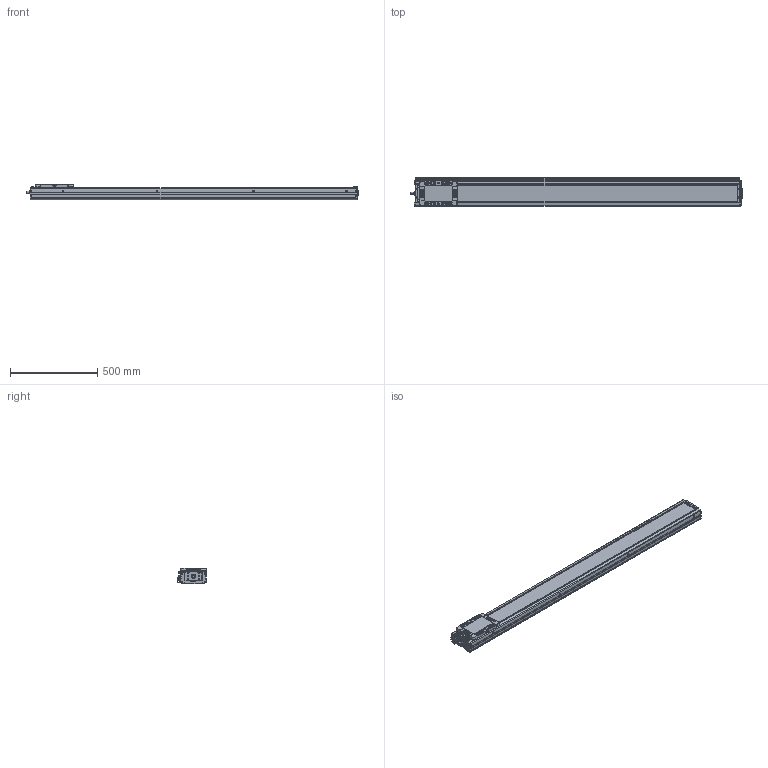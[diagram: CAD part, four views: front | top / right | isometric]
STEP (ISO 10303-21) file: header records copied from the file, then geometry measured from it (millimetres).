
FILE_DESCRIPTION(('STEP AP214'),'1');
FILE_NAME('Z:/Web/3D/SAN150/2013.04 (STP.)/SAN150ㅁㅁ-1600+3SL.stp','2013-05-07T08:15:54',(' '),(' '),'Spatial InterOp 3D',' ',' ');
FILE_SCHEMA(('automotive_design'));
Length unit declared in the file: millimetre
Products named in the file (57): SLBL-SAN150; SLCV-SAN150; FHCS M4.0 x 8.0; BHCS M4.0 x 10.0; SFX-SAN150; RRCV-SAN150; FRBL-SAN150; Spacer; RN15; FRCV-SAN150; Screw 20; BASE-SAN150-000L ; SUS COVER; 스크루 : Round - M5.0 x 6.0; M3.0 x 6.0; SRL-16x17-360L; SGD-SAN150; EE-SX674; SBK-SX674-352; 스크루 : Round - M3.0 x 6.0
Bounding box: 1908 x 166 x 90 mm (x, y, z)
Volume: 9735082.8 mm3; surface area: 1965951.1 mm2
Topology: 57 solids, 57 shells, 2840 faces, 7330 edges, 4687 vertices
Faces by surface type: plane 1410, cylinder 967, cone 354, sphere 76, bspline 21, torus 12
Entity records: 113375 total; most frequent: CARTESIAN_POINT 18812, DIRECTION 15482, ORIENTED_EDGE 14364, EDGE_CURVE 7182, AXIS2_PLACEMENT_3D 5560, VERTEX_POINT 4687, LINE 4362, VECTOR 4362
